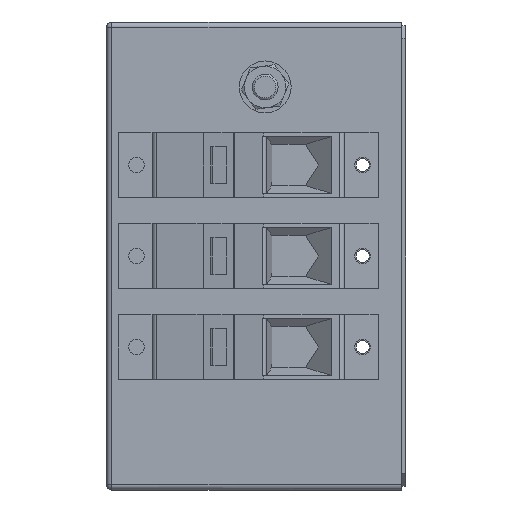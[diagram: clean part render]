
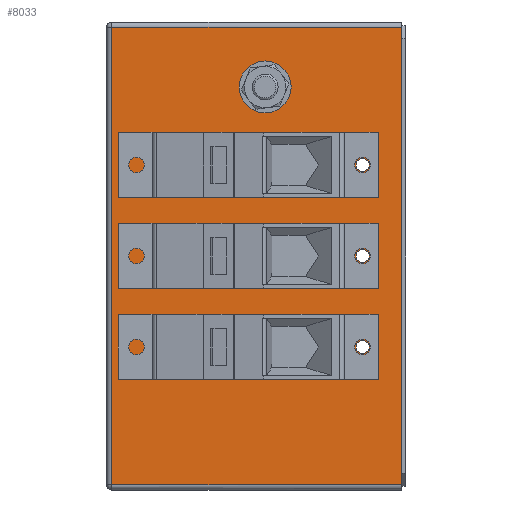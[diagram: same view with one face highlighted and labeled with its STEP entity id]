
A CAD part, left-side view. The second image highlights one B-rep face of the part: STEP entity #8033.
In plain terms, the highlighted planar face has unit normal (-1, 0, 0).
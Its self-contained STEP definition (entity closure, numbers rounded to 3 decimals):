
#22 = DIRECTION ( 'NONE',  ( 1., 0., 0. ) ) ;
#55 = DIRECTION ( 'NONE',  ( 1., 0., 0. ) ) ;
#71 = VECTOR ( 'NONE', #2563, 1000. ) ;
#186 = EDGE_CURVE ( 'NONE', #6140, #5503, #1476, .T. ) ;
#613 = DIRECTION ( 'NONE',  ( 1., 0., 0. ) ) ;
#621 = VERTEX_POINT ( 'NONE', #2554 ) ;
#631 = CARTESIAN_POINT ( 'NONE',  ( 50., 16.5, 88.5 ) ) ;
#812 = EDGE_CURVE ( 'NONE', #621, #7622, #8929, .T. ) ;
#848 = ORIENTED_EDGE ( 'NONE', *, *, #4748, .T. ) ;
#945 = VERTEX_POINT ( 'NONE', #10200 ) ;
#998 = ORIENTED_EDGE ( 'NONE', *, *, #4143, .T. ) ;
#1004 = CIRCLE ( 'NONE', #1146, 2.5 ) ;
#1146 = AXIS2_PLACEMENT_3D ( 'NONE', #3243, #55, #4042 ) ;
#1176 = CIRCLE ( 'NONE', #6813, 2.5 ) ;
#1178 = CARTESIAN_POINT ( 'NONE',  ( 50., 113., -1.5 ) ) ;
#1395 = DIRECTION ( 'NONE',  ( 1., 0., 0. ) ) ;
#1425 = CARTESIAN_POINT ( 'NONE',  ( 50., 54., 153.5 ) ) ;
#1456 = VERTEX_POINT ( 'NONE', #2802 ) ;
#1460 = DIRECTION ( 'NONE',  ( 0., 0., -1. ) ) ;
#1476 = CIRCLE ( 'NONE', #9214, 2.5 ) ;
#1575 = EDGE_CURVE ( 'NONE', #1970, #1456, #3515, .T. ) ;
#1630 = EDGE_CURVE ( 'NONE', #5503, #6140, #6739, .T. ) ;
#1780 = VERTEX_POINT ( 'NONE', #3764 ) ;
#1842 = CARTESIAN_POINT ( 'NONE',  ( 50., 16.5, 53.5 ) ) ;
#1887 = DIRECTION ( 'NONE',  ( 1., 0., 0. ) ) ;
#1970 = VERTEX_POINT ( 'NONE', #3405 ) ;
#2039 = EDGE_CURVE ( 'NONE', #6027, #2905, #3367, .T. ) ;
#2218 = ORIENTED_EDGE ( 'NONE', *, *, #812, .T. ) ;
#2554 = CARTESIAN_POINT ( 'NONE',  ( 50., 1.5, 0.5 ) ) ;
#2563 = DIRECTION ( 'NONE',  ( 0., 1., 0. ) ) ;
#2588 = LINE ( 'NONE', #10313, #7211 ) ;
#2649 = ORIENTED_EDGE ( 'NONE', *, *, #4907, .T. ) ;
#2802 = CARTESIAN_POINT ( 'NONE',  ( 50., 54., 148.5 ) ) ;
#2811 = CARTESIAN_POINT ( 'NONE',  ( 50., 16.5, 91. ) ) ;
#2851 = DIRECTION ( 'NONE',  ( 0., 0., -1. ) ) ;
#2905 = VERTEX_POINT ( 'NONE', #2811 ) ;
#3000 = EDGE_LOOP ( 'NONE', ( #848, #9490, #2218, #998 ) ) ;
#3135 = CIRCLE ( 'NONE', #8813, 5. ) ;
#3136 = VERTEX_POINT ( 'NONE', #7293 ) ;
#3243 = CARTESIAN_POINT ( 'NONE',  ( 50., 16.5, 53.5 ) ) ;
#3367 = CIRCLE ( 'NONE', #4712, 2.5 ) ;
#3369 = PLANE ( 'NONE',  #9245 ) ;
#3405 = CARTESIAN_POINT ( 'NONE',  ( 50., 54., 158.5 ) ) ;
#3515 = CIRCLE ( 'NONE', #9448, 5. ) ;
#3764 = CARTESIAN_POINT ( 'NONE',  ( 50., 16.5, 51. ) ) ;
#3777 = DIRECTION ( 'NONE',  ( 1., 0., 0. ) ) ;
#4028 = ORIENTED_EDGE ( 'NONE', *, *, #5046, .T. ) ;
#4042 = DIRECTION ( 'NONE',  ( 0., 0., -1. ) ) ;
#4143 = EDGE_CURVE ( 'NONE', #7622, #5645, #4687, .T. ) ;
#4149 = CARTESIAN_POINT ( 'NONE',  ( 50., 115., 176.5 ) ) ;
#4337 = CARTESIAN_POINT ( 'NONE',  ( 50., 113., 176.5 ) ) ;
#4371 = ORIENTED_EDGE ( 'NONE', *, *, #6867, .T. ) ;
#4422 = CARTESIAN_POINT ( 'NONE',  ( 50., 16.5, 123.5 ) ) ;
#4503 = EDGE_LOOP ( 'NONE', ( #10178, #2649 ) ) ;
#4687 = LINE ( 'NONE', #4149, #71 ) ;
#4712 = AXIS2_PLACEMENT_3D ( 'NONE', #5195, #1887, #6730 ) ;
#4748 = EDGE_CURVE ( 'NONE', #5645, #945, #7808, .T. ) ;
#4867 = CARTESIAN_POINT ( 'NONE',  ( 50., 16.5, 86. ) ) ;
#4907 = EDGE_CURVE ( 'NONE', #2905, #6027, #1176, .T. ) ;
#4909 = AXIS2_PLACEMENT_3D ( 'NONE', #10240, #613, #6959 ) ;
#5046 = EDGE_CURVE ( 'NONE', #1456, #1970, #3135, .T. ) ;
#5118 = CIRCLE ( 'NONE', #9893, 2.5 ) ;
#5195 = CARTESIAN_POINT ( 'NONE',  ( 50., 16.5, 88.5 ) ) ;
#5218 = DIRECTION ( 'NONE',  ( 1., 0., 0. ) ) ;
#5391 = CARTESIAN_POINT ( 'NONE',  ( 50., 1.5, -1.5 ) ) ;
#5503 = VERTEX_POINT ( 'NONE', #9209 ) ;
#5557 = VECTOR ( 'NONE', #6065, 1000. ) ;
#5645 = VERTEX_POINT ( 'NONE', #4337 ) ;
#5824 = DIRECTION ( 'NONE',  ( 1., 0., 0. ) ) ;
#6021 = EDGE_CURVE ( 'NONE', #3136, #1780, #1004, .T. ) ;
#6027 = VERTEX_POINT ( 'NONE', #4867 ) ;
#6065 = DIRECTION ( 'NONE',  ( 0., 0., -1. ) ) ;
#6140 = VERTEX_POINT ( 'NONE', #9043 ) ;
#6152 = DIRECTION ( 'NONE',  ( 0., 0., 1. ) ) ;
#6306 = CARTESIAN_POINT ( 'NONE',  ( 50., 54., 153.5 ) ) ;
#6517 = DIRECTION ( 'NONE',  ( 0., 0., -1. ) ) ;
#6581 = FACE_OUTER_BOUND ( 'NONE', #3000, .T. ) ;
#6730 = DIRECTION ( 'NONE',  ( 0., 0., -1. ) ) ;
#6739 = CIRCLE ( 'NONE', #4909, 2.5 ) ;
#6813 = AXIS2_PLACEMENT_3D ( 'NONE', #631, #3777, #10151 ) ;
#6867 = EDGE_CURVE ( 'NONE', #1780, #3136, #5118, .T. ) ;
#6959 = DIRECTION ( 'NONE',  ( 0., 0., -1. ) ) ;
#7098 = ORIENTED_EDGE ( 'NONE', *, *, #1575, .T. ) ;
#7211 = VECTOR ( 'NONE', #10215, 1000. ) ;
#7293 = CARTESIAN_POINT ( 'NONE',  ( 50., 16.5, 56. ) ) ;
#7430 = DIRECTION ( 'NONE',  ( 0., 0., -1. ) ) ;
#7559 = EDGE_LOOP ( 'NONE', ( #4371, #9535 ) ) ;
#7607 = FACE_BOUND ( 'NONE', #4503, .T. ) ;
#7622 = VERTEX_POINT ( 'NONE', #9802 ) ;
#7728 = FACE_BOUND ( 'NONE', #7559, .T. ) ;
#7808 = LINE ( 'NONE', #1178, #5557 ) ;
#7900 = ORIENTED_EDGE ( 'NONE', *, *, #1630, .T. ) ;
#7928 = ORIENTED_EDGE ( 'NONE', *, *, #186, .T. ) ;
#8019 = EDGE_LOOP ( 'NONE', ( #4028, #7098 ) ) ;
#8033 = ADVANCED_FACE ( 'NONE', ( #10091, #7728, #7607, #8957, #6581 ), #3369, .F. ) ;
#8098 = EDGE_LOOP ( 'NONE', ( #7928, #7900 ) ) ;
#8225 = DIRECTION ( 'NONE',  ( 1., 0., 0. ) ) ;
#8636 = EDGE_CURVE ( 'NONE', #945, #621, #2588, .T. ) ;
#8813 = AXIS2_PLACEMENT_3D ( 'NONE', #6306, #22, #9598 ) ;
#8929 = LINE ( 'NONE', #5391, #9547 ) ;
#8957 = FACE_BOUND ( 'NONE', #8019, .T. ) ;
#8963 = CARTESIAN_POINT ( 'NONE',  ( 50., 115., -1.5 ) ) ;
#9043 = CARTESIAN_POINT ( 'NONE',  ( 50., 16.5, 121. ) ) ;
#9209 = CARTESIAN_POINT ( 'NONE',  ( 50., 16.5, 126. ) ) ;
#9214 = AXIS2_PLACEMENT_3D ( 'NONE', #4422, #5218, #2851 ) ;
#9245 = AXIS2_PLACEMENT_3D ( 'NONE', #8963, #5824, #6517 ) ;
#9448 = AXIS2_PLACEMENT_3D ( 'NONE', #1425, #1395, #1460 ) ;
#9490 = ORIENTED_EDGE ( 'NONE', *, *, #8636, .T. ) ;
#9535 = ORIENTED_EDGE ( 'NONE', *, *, #6021, .T. ) ;
#9547 = VECTOR ( 'NONE', #6152, 1000. ) ;
#9598 = DIRECTION ( 'NONE',  ( 0., 0., -1. ) ) ;
#9802 = CARTESIAN_POINT ( 'NONE',  ( 50., 1.5, 176.5 ) ) ;
#9893 = AXIS2_PLACEMENT_3D ( 'NONE', #1842, #8225, #7430 ) ;
#10091 = FACE_BOUND ( 'NONE', #8098, .T. ) ;
#10151 = DIRECTION ( 'NONE',  ( 0., 0., -1. ) ) ;
#10178 = ORIENTED_EDGE ( 'NONE', *, *, #2039, .T. ) ;
#10200 = CARTESIAN_POINT ( 'NONE',  ( 50., 113., 0.5 ) ) ;
#10215 = DIRECTION ( 'NONE',  ( 0., -1., 0. ) ) ;
#10240 = CARTESIAN_POINT ( 'NONE',  ( 50., 16.5, 123.5 ) ) ;
#10313 = CARTESIAN_POINT ( 'NONE',  ( 50., 115., 0.5 ) ) ;
